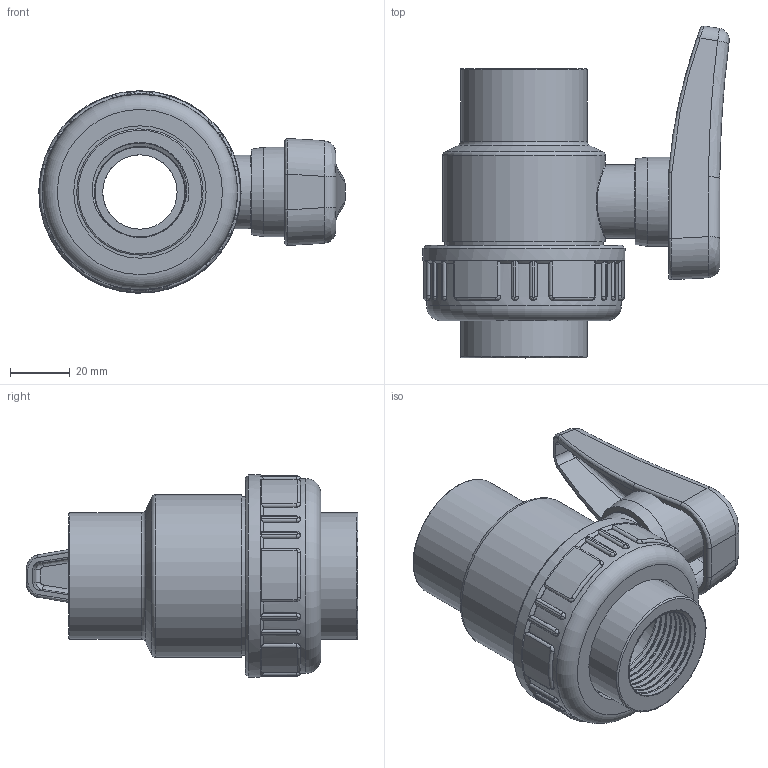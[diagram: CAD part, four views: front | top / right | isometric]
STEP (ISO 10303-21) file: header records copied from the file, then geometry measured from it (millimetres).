
FILE_DESCRIPTION(/* description */ (''),/* implementation_level */ '2;1');
FILE_NAME(/* name */ 'C:\Users\POLYPIPE\Desktop\DATASET INVENTOR\LIBRERIA EFFAST\3D_VALVOLE\3D_VALVOLE A SFERA\3D_SV\3D_BERSVE\3D_BERSVE032D.stp',/* time_stamp */ '2018-01-24T14:50:46+01:00',/* author */ ('POLYPIPE'),/* organization */ (''),/* preprocessor_version */ 'ST-DEVELOPER v16.1',/* originating_system */ 'Autodesk Inventor 2016',/* authorisation */ '');
FILE_SCHEMA (('CONFIG_CONTROL_DESIGN'));
Length unit declared in the file: centimetre
Products named in the file (1): 3D_BERSVE032D
Bounding box: 103.02 x 111.56 x 68 mm (x, y, z)
Volume: 181309.7 mm3; surface area: 54007.1 mm2
Topology: 1 solids, 1 shells, 355 faces, 899 edges, 554 vertices
Faces by surface type: cylinder 112, bspline 109, plane 103, torus 19, sphere 8, cone 4
Full cylindrical faces by diameter (mm): 15.8 x1, 24.7 x1, 25 x1, 30 x1, 30.291 x2, 42.5 x1, 42.6 x1, 44.5 x1, 51 x1, 53.3 x1, 54.7 x1, 56.7 x1, 65.5 x1, 68 x1
Entity records: 39662 total; most frequent: CARTESIAN_POINT 31403, ORIENTED_EDGE 1730, DIRECTION 1473, EDGE_CURVE 865, AXIS2_PLACEMENT_3D 580, VERTEX_POINT 544, EDGE_LOOP 391, STYLED_ITEM 356
